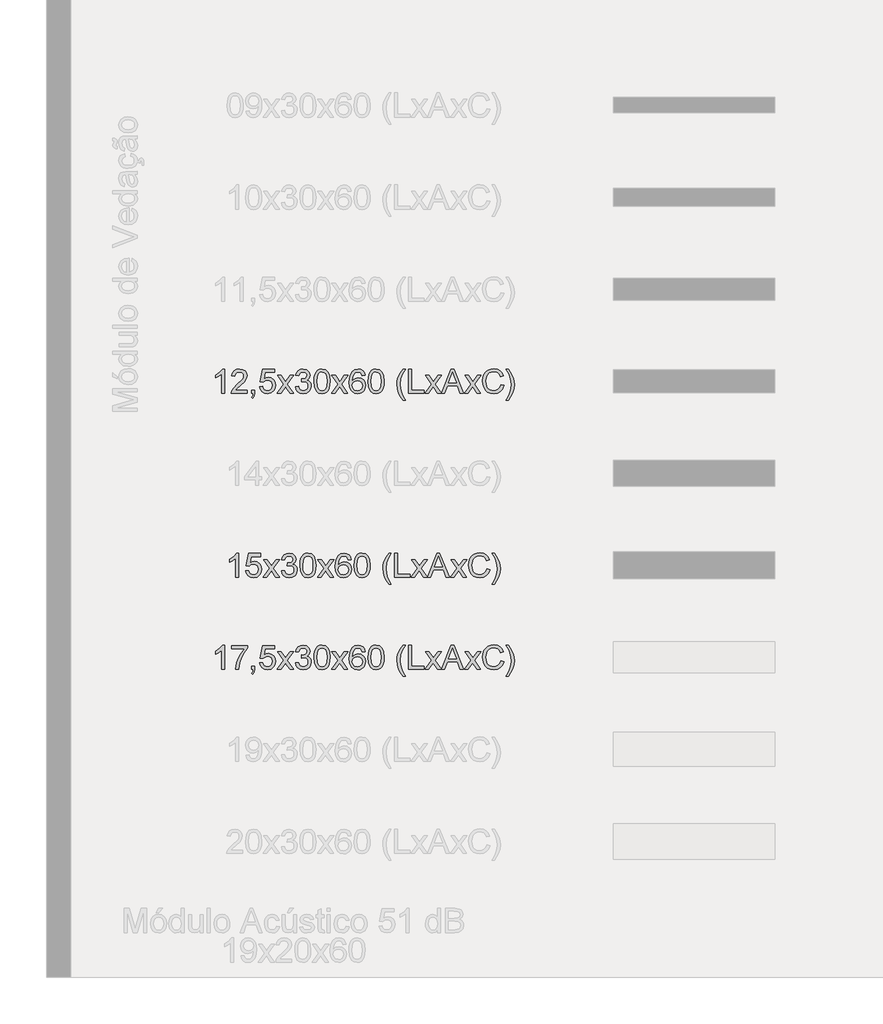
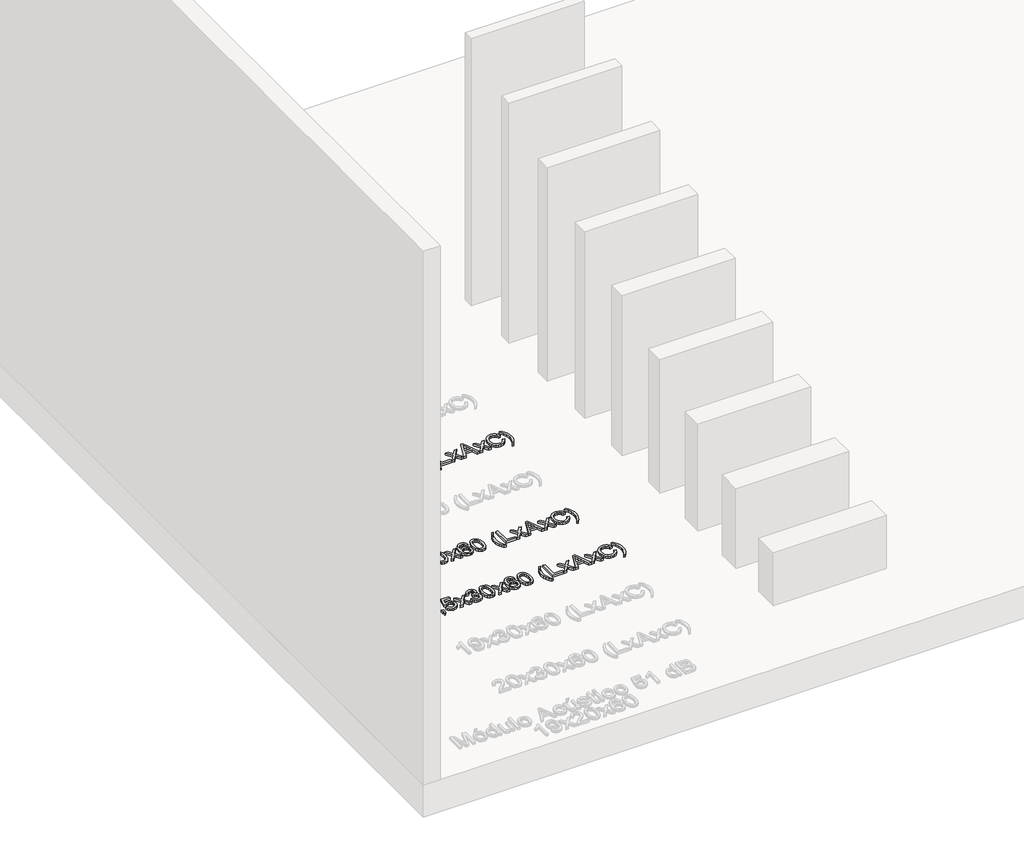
# One storey, part 13 of 26: 3 proxies.
"""IFC4 building model written with IfcOpenShell, lengths in millimetres."""

from ifc_helpers import new_model, si_unit, origin, origin_with_axes, place, context, project, spatial, polyline, outline, extrude, element, save

model = new_model("IFC4")

# Units and contexts
model_context = context("Model", 3, world=origin())
ifc_project = project(units=[si_unit("LENGTHUNIT", "METRE", prefix="MILLI")], contexts=[model_context])

# Site, building, storey
site = spatial("IfcSite", under=ifc_project)
building = spatial("IfcBuilding", under=site)
storey = spatial("IfcBuildingStorey", under=building, Name="Catálogo Celucon", Elevation=0.0)

# Proxies
placement = place(None, origin())
element("IfcBuildingElementProxy", 1, Name="Legenda Tabela de Módulos", ObjectType="Legenda Tabela de Módulos", at=placement, inside=storey, context=model_context, shape_type="SweptSolid", body=[
    extrude(outline(polyline([(8048.0494976, -2301.1000972), (8029.2139394, -2301.1000972), (8029.2139394, -2183.6721644), (8011.3716627, -2196.3824873), (7991.5428231, -2205.8922369), (7991.5428231, -2188.0867483), (8019.1523669, -2170.4652007), (8035.9093918, -2150.415632), (8048.0494976, -2150.415632), (8048.0494976, -2301.1000972)])), origin_with_axes(), (0.0, 0.0, 1.0), 20.0),
    extrude(outline(polyline([(8189.3161837, -2282.2645391), (8189.3161837, -2301.1000972), (8090.4295034, -2301.1000972), (8092.4528544, -2288.1138628), (8103.8939845, -2268.1194764), (8127.4752204, -2246.2856799), (8159.9959887, -2214.9053458), (8166.0936328, -2204.0896151), (8168.1261808, -2193.56819), (8166.2085959, -2184.1366154), (8160.4558412, -2176.2961304), (8151.6128778, -2171.0124252), (8140.4246666, -2169.2511902), (8128.6754354, -2170.9710385), (8119.5473634, -2176.1305835), (8113.6566529, -2184.3251549), (8111.6195064, -2195.1500826), (8092.7839482, -2192.7956378), (8097.3502835, -2174.576282), (8107.2233165, -2161.2681509), (8121.8880126, -2153.1287617), (8140.8293368, -2150.415632), (8159.9086168, -2153.4322644), (8174.5457216, -2162.4821614), (8183.8577346, -2176.0018248), (8186.961739, -2192.4277558), (8183.6140128, -2210.2884267), (8172.4855825, -2228.7561029), (8145.5014381, -2254.5630248), (8123.8331886, -2272.6812131), (8115.3351145, -2282.2645391), (8189.3161837, -2282.2645391)])), origin_with_axes(), (0.0, 0.0, 1.0), 20.0),
    extrude(outline(polyline([(8217.569521, -2301.1000972), (8217.569521, -2282.2645391), (8236.4050791, -2282.2645391), (8236.4050791, -2301.1000972), (8233.0205648, -2320.3587197), (8222.2784105, -2331.7078792), (8217.569521, -2324.6445449), (8224.4857025, -2316.5143528), (8226.9505119, -2301.1000972), (8217.569521, -2301.1000972)])), origin_with_axes(), (0.0, 0.0, 1.0), 20.0),
    extrude(outline(polyline([(8267.0128611, -2261.0745361), (8285.8484193, -2258.7200914), (8289.30651, -2270.0278642), (8295.3397748, -2278.1258666), (8303.9206223, -2282.9957045), (8315.0214615, -2284.6189838), (8328.5227307, -2282.3611081), (8338.6394856, -2275.5874809), (8344.9578589, -2265.0798514), (8347.0639833, -2251.6199689), (8345.0912161, -2238.9464341), (8339.1729145, -2229.2527436), (8329.2630932, -2223.0999172), (8315.3157671, -2221.0489751), (8298.7794714, -2224.3231248), (8288.2028641, -2232.8211989), (8269.3673059, -2230.4667541), (8285.8484193, -2152.7700768), (8358.8362071, -2152.7700768), (8358.8362071, -2171.6056349), (8301.0787339, -2171.6056349), (8293.0221182, -2213.102724), (8306.4774022, -2204.9357437), (8320.5764796, -2202.2134169), (8338.1750346, -2205.5887342), (8352.7845483, -2215.7146861), (8362.6207932, -2231.1473358), (8365.8995414, -2250.4427465), (8362.9472884, -2269.2783046), (8354.0905294, -2285.391536), (8337.1311694, -2298.9387905), (8314.9478851, -2303.454542), (8296.4480193, -2300.5528728), (8281.7097468, -2291.847865), (8271.6067875, -2278.3511943), (8267.0128611, -2261.0745361)])), origin_with_axes(), (0.0, 0.0, 1.0), 20.0),
    extrude(outline(polyline([(8375.3173205, -2301.1000972), (8415.5636108, -2245.4763396), (8377.6717653, -2190.4411931), (8400.3332962, -2190.4411931), (8418.6170313, -2216.9286967), (8427.1518936, -2229.4366846), (8434.5463217, -2219.2095651), (8455.3684427, -2190.4411931), (8478.0299736, -2190.4411931), (8438.2251417, -2245.4763396), (8476.5584456, -2301.1000972), (8453.8969147, -2301.1000972), (8430.8307136, -2267.6596239), (8426.6000706, -2261.5527827), (8397.9788514, -2301.1000972), (8375.3173205, -2301.1000972)])), origin_with_axes(), (0.0, 0.0, 1.0), 20.0),
    extrude(outline(polyline([(8488.3306694, -2261.0745361), (8507.1662276, -2258.7200914), (8511.3830749, -2270.5566946), (8517.5588939, -2278.5489309), (8525.9971872, -2283.1014706), (8537.0014574, -2284.6189838), (8549.9141154, -2282.5312535), (8559.8837175, -2276.2680625), (8566.2572731, -2266.9238599), (8568.3817916, -2255.5930944), (8566.2756672, -2244.8371446), (8559.9572939, -2236.1137428), (8550.392362, -2230.3333969), (8538.5465618, -2228.406615), (8525.3395981, -2230.4667541), (8527.4365255, -2211.631196), (8530.4531579, -2211.8519252), (8551.8271018, -2206.4440599), (8558.9456184, -2199.5830607), (8561.3184573, -2189.8157937), (8559.5986089, -2181.6810031), (8554.439064, -2175.0821198), (8546.5663893, -2170.7089226), (8536.7071518, -2169.2511902), (8526.8295202, -2170.7227181), (8518.7545104, -2175.1373021), (8512.8592015, -2182.494942), (8509.5206723, -2192.7956378), (8490.6851142, -2190.4411931), (8496.2309353, -2173.5278183), (8506.0993698, -2160.9002689), (8519.600639, -2153.0367912), (8536.0449642, -2150.415632), (8558.7616774, -2155.584374), (8574.6541796, -2169.7110426), (8580.1540154, -2188.7121477), (8574.9300911, -2206.0761779), (8559.4790473, -2218.5473775), (8571.2696652, -2223.3114493), (8580.0068626, -2231.4232473), (8585.414728, -2242.4413131), (8587.2173497, -2255.9241882), (8583.6121062, -2274.2814998), (8572.7963755, -2289.622179), (8556.471612, -2299.9964512), (8536.3392698, -2303.454542), (8518.129111, -2300.502289), (8503.3034666, -2291.6455299), (8492.9935737, -2278.0982755), (8488.3306694, -2261.0745361)])), origin_with_axes(), (0.0, 0.0, 1.0), 20.0),
    extrude(outline(polyline([(8603.6984631, -2226.9718752), (8605.0826191, -2202.8526119), (8609.2350871, -2183.6169821), (8616.1144805, -2168.9706801), (8625.6794123, -2158.6194005), (8637.9988606, -2152.4665741), (8653.1418033, -2150.415632), (8675.1411466, -2155.2716743), (8690.334673, -2169.2695843), (8699.1638409, -2191.5632332), (8702.5851434, -2226.9718752), (8701.214783, -2250.9531828), (8697.1037017, -2270.1428273), (8690.2656951, -2284.8029248), (8680.7145588, -2295.1955912), (8668.3675193, -2301.3898043), (8653.1418033, -2303.454542), (8633.5704811, -2299.8676925), (8618.7080485, -2289.1071442), (8607.4508595, -2263.622119), (8603.6984631, -2226.9718752)]), holes=[polyline([(8622.5340213, -2226.935087), (8624.7413132, -2256.5633832), (8631.3631892, -2273.7112827), (8641.2224266, -2281.8920586), (8653.1418033, -2284.6189838), (8665.0611799, -2281.8828615), (8674.9204174, -2273.6744945), (8681.5422933, -2256.5173979), (8683.7495853, -2226.935087), (8681.6158697, -2197.9735769), (8675.214723, -2180.6923202), (8665.3738796, -2172.1114727), (8652.9210741, -2169.2511902), (8641.1304561, -2171.7711818), (8631.6574947, -2179.3311568), (8624.8148896, -2197.6884684), (8622.5340213, -2226.935087)])]), origin_with_axes(), (0.0, 0.0, 1.0), 20.0),
    extrude(outline(polyline([(8712.0029225, -2301.1000972), (8752.2492128, -2245.4763396), (8714.3573673, -2190.4411931), (8737.0188982, -2190.4411931), (8755.3026333, -2216.9286967), (8763.8374956, -2229.4366846), (8771.2319237, -2219.2095651), (8792.0540446, -2190.4411931), (8814.7155755, -2190.4411931), (8774.9107437, -2245.4763396), (8813.2440476, -2301.1000972), (8790.5825167, -2301.1000972), (8767.5163156, -2267.6596239), (8763.2856726, -2261.5527827), (8734.6644534, -2301.1000972), (8712.0029225, -2301.1000972)])), origin_with_axes(), (0.0, 0.0, 1.0), 20.0),
    extrude(outline(polyline([(8921.5485069, -2190.4411931), (8902.7129488, -2192.7956378), (8895.5760381, -2177.0870766), (8887.0319787, -2171.2101618), (8876.7036917, -2169.2511902), (8859.7075436, -2173.8129269), (8846.8500678, -2190.9378338), (8842.9459202, -2204.9679334), (8841.4973848, -2224.5070658), (8858.1072569, -2209.4790863), (8878.6902545, -2204.5678617), (8896.0910729, -2207.9247849), (8910.6959881, -2217.9955545), (8920.6012108, -2233.382219), (8923.9029517, -2252.6868267), (8922.3486503, -2266.1743003), (8917.685746, -2278.6776896), (8910.3005149, -2289.2818881), (8900.5792332, -2297.0717894), (8888.9633592, -2301.8588538), (8875.8943513, -2303.454542), (8854.525006, -2299.223899), (8837.5058651, -2286.5319702), (8826.3728363, -2264.1279567), (8822.6618266, -2230.7610597), (8826.782105, -2193.2462933), (8839.14294, -2167.5957212), (8856.0195266, -2154.7106543), (8877.8809141, -2150.415632), (8894.4080128, -2153.0735794), (8907.6425675, -2161.0474217), (8916.9131938, -2173.7117593), (8921.5485069, -2190.4411931)]), holes=[polyline([(8841.4973848, -2252.3925211), (8845.8567864, -2268.7080875), (8857.4450693, -2280.5538878), (8874.4228234, -2284.6189838), (8886.8526363, -2282.5128594), (8896.6245018, -2276.1944862), (8902.9566706, -2266.2616723), (8905.0673936, -2253.3122261), (8902.9842618, -2240.8824131), (8896.7348664, -2231.4048532), (8886.797454, -2225.4037782), (8873.6502712, -2223.4034198), (8861.2388524, -2225.4037782), (8850.8599816, -2231.4048532), (8843.838034, -2240.6524869), (8841.4973848, -2252.3925211)])]), origin_with_axes(), (0.0, 0.0, 1.0), 20.0),
    extrude(outline(polyline([(8940.3840651, -2226.9718752), (8941.7682211, -2202.8526119), (8945.9206891, -2183.6169821), (8952.8000824, -2168.9706801), (8962.3650143, -2158.6194005), (8974.6844626, -2152.4665741), (8989.8274053, -2150.415632), (9011.8267486, -2155.2716743), (9027.020275, -2169.2695843), (9035.8494428, -2191.5632332), (9039.2707454, -2226.9718752), (9037.900385, -2250.9531828), (9033.7893037, -2270.1428273), (9026.9512971, -2284.8029248), (9017.4001608, -2295.1955912), (9005.0531213, -2301.3898043), (8989.8274053, -2303.454542), (8970.2560831, -2299.8676925), (8955.3936505, -2289.1071442), (8944.1364615, -2263.622119), (8940.3840651, -2226.9718752)]), holes=[polyline([(8959.2196233, -2226.935087), (8961.4269152, -2256.5633832), (8968.0487911, -2273.7112827), (8977.9080286, -2281.8920586), (8989.8274053, -2284.6189838), (9001.7467819, -2281.8828615), (9011.6060194, -2273.6744945), (9018.2278953, -2256.5173979), (9020.4351873, -2226.935087), (9018.3014717, -2197.9735769), (9011.900325, -2180.6923202), (9002.0594816, -2172.1114727), (8989.6066761, -2169.2511902), (8977.8160581, -2171.7711818), (8968.3430967, -2179.3311568), (8961.5004916, -2197.6884684), (8959.2196233, -2226.935087)])]), origin_with_axes(), (0.0, 0.0, 1.0), 20.0),
    extrude(outline(polyline([(9156.9929839, -2343.4801031), (9142.3972657, -2322.998273), (9130.2479628, -2299.2974754), (9122.0533914, -2273.5273417), (9119.3218676, -2246.8375029), (9121.3636126, -2223.431011), (9127.4888478, -2201.0361945), (9139.6473478, -2175.670731), (9156.9929839, -2150.415632), (9171.1196525, -2150.415632), (9153.4981049, -2180.2508618), (9142.9031034, -2209.1663866), (9138.1574257, -2246.9478675), (9140.2175649, -2271.094722), (9146.3979824, -2295.2323794), (9156.6986783, -2319.3608398), (9171.1196525, -2343.4801031), (9156.9929839, -2343.4801031)])), origin_with_axes(), (0.0, 0.0, 1.0), 20.0),
    extrude(outline(polyline([(9192.3096554, -2301.1000972), (9192.3096554, -2150.415632), (9211.1452136, -2150.415632), (9211.1452136, -2282.2645391), (9286.4874462, -2282.2645391), (9286.4874462, -2301.1000972), (9192.3096554, -2301.1000972)])), origin_with_axes(), (0.0, 0.0, 1.0), 20.0),
    extrude(outline(polyline([(9396.0794925, -2301.1000972), (9456.2281987, -2150.415632), (9472.2678537, -2150.415632), (9532.4165599, -2301.1000972), (9512.514144, -2301.1000972), (9495.2604784, -2254.0112018), (9433.1987858, -2254.0112018), (9415.9819085, -2301.1000972), (9396.0794925, -2301.1000972)]), holes=[polyline([(9440.1149673, -2235.1756437), (9488.3810851, -2235.1756437), (9474.8062395, -2198.1299268), (9464.2480262, -2169.2511902), (9454.8670354, -2194.8925652), (9440.1149673, -2235.1756437)])]), origin_with_axes(), (0.0, 0.0, 1.0), 20.0),
    extrude(outline(polyline([(9293.5507805, -2301.1000972), (9333.7970707, -2245.4763396), (9295.9052252, -2190.4411931), (9318.5667561, -2190.4411931), (9336.8504913, -2216.9286967), (9345.3853536, -2229.4366846), (9352.7797817, -2219.2095651), (9373.6019026, -2190.4411931), (9396.2634335, -2190.4411931), (9356.4586016, -2245.4763396), (9394.7919055, -2301.1000972), (9372.1303746, -2301.1000972), (9349.0641735, -2267.6596239), (9344.8335306, -2261.5527827), (9316.2123114, -2301.1000972), (9293.5507805, -2301.1000972)])), origin_with_axes(), (0.0, 0.0, 1.0), 20.0),
    extrude(outline(polyline([(9538.4130365, -2301.1000972), (9578.6593267, -2245.4763396), (9540.7674812, -2190.4411931), (9563.4290121, -2190.4411931), (9581.7127473, -2216.9286967), (9590.2476096, -2229.4366846), (9597.6420377, -2219.2095651), (9618.4641586, -2190.4411931), (9641.1256895, -2190.4411931), (9601.3208576, -2245.4763396), (9639.6541615, -2301.1000972), (9616.9926306, -2301.1000972), (9593.9264295, -2267.6596239), (9589.6957866, -2261.5527827), (9561.0745674, -2301.1000972), (9538.4130365, -2301.1000972)])), origin_with_axes(), (0.0, 0.0, 1.0), 20.0),
    extrude(outline(polyline([(9764.4397343, -2247.5364787), (9783.2752924, -2252.3925211), (9774.5840803, -2274.3412806), (9760.9448553, -2290.3763371), (9743.0290022, -2300.1849908), (9721.5079055, -2303.454542), (9699.6603135, -2300.9805356), (9682.3100789, -2293.5585163), (9669.0111447, -2281.4460016), (9659.3174542, -2264.9005089), (9653.3991526, -2245.4487484), (9651.4263854, -2224.6174304), (9653.65667, -2202.6456783), (9660.3475238, -2183.6721644), (9671.1494588, -2168.2992955), (9685.7129873, -2157.1294784), (9702.985047, -2150.32826), (9721.9125757, -2148.0611872), (9742.5645512, -2150.9950461), (9759.6388743, -2159.7966229), (9772.6021161, -2173.9232915), (9780.9208477, -2192.832426), (9762.0852895, -2197.3205864), (9755.5553841, -2183.5847924), (9746.6342457, -2174.1624148), (9735.2115098, -2168.7131627), (9721.1768117, -2166.8967454), (9704.9992009, -2168.9108993), (9691.7094638, -2174.9533611), (9681.6248987, -2184.3895343), (9675.0628036, -2196.5848224), (9670.2619435, -2224.5806422), (9671.6828877, -2241.9814606), (9675.9457204, -2257.0278342), (9683.2113898, -2269.1449474), (9693.6408443, -2277.7579846), (9706.1442336, -2282.903734), (9719.6317073, -2284.6189838), (9735.3540641, -2282.2829332), (9748.4552616, -2275.2747812), (9758.3466888, -2263.6681042), (9764.4397343, -2247.5364787)])), origin_with_axes(), (0.0, 0.0, 1.0), 20.0),
    extrude(outline(polyline([(9811.5286297, -2343.4801031), (9797.4019611, -2343.4801031), (9811.8229353, -2319.3608398), (9822.1236311, -2295.2323794), (9828.3040487, -2271.094722), (9830.3641878, -2246.9478675), (9825.6185101, -2209.4974804), (9815.1338732, -2180.5451674), (9797.4019611, -2150.415632), (9811.5286297, -2150.415632), (9828.8742658, -2175.670731), (9841.0327657, -2201.0361945), (9847.1580009, -2223.431011), (9849.199746, -2246.8375029), (9846.4544266, -2273.5273417), (9838.2184684, -2299.2974754), (9826.05537, -2322.998273), (9811.5286297, -2343.4801031)])), origin_with_axes(), (0.0, 0.0, 1.0), 20.0),
])
element("IfcBuildingElementProxy", 2, Name="Legenda Tabela de Módulos", ObjectType="Legenda Tabela de Módulos", at=placement, inside=storey, context=model_context, shape_type="SweptSolid", body=[
    extrude(outline(polyline([(8135.1639541, -3443.9572401), (8116.3283959, -3443.9572401), (8116.3283959, -3326.5293072), (8098.4861191, -3339.2396302), (8078.6572796, -3348.7493797), (8078.6572796, -3330.9438912), (8106.2668233, -3313.3223436), (8123.0238482, -3293.2727749), (8135.1639541, -3293.2727749), (8135.1639541, -3443.9572401)])), origin_with_axes(), (0.0, 0.0, 1.0), 20.0),
    extrude(outline(polyline([(8179.8984047, -3403.931679), (8198.7339628, -3401.5772342), (8202.1920536, -3412.8850071), (8208.2253183, -3420.9830095), (8216.8061658, -3425.8528474), (8227.907005, -3427.4761267), (8241.4082743, -3425.218251), (8251.5250291, -3418.4446237), (8257.8434024, -3407.9369942), (8259.9495268, -3394.4771117), (8257.9767596, -3381.803577), (8252.058458, -3372.1098864), (8242.1486368, -3365.9570601), (8228.2013106, -3363.9061179), (8211.665015, -3367.1802677), (8201.0884076, -3375.6783418), (8182.2528494, -3373.323897), (8198.7339628, -3295.6272196), (8271.7217507, -3295.6272196), (8271.7217507, -3314.4627778), (8213.9642774, -3314.4627778), (8205.9076617, -3355.9598668), (8219.3629457, -3347.7928865), (8233.4620232, -3345.0705598), (8251.0605781, -3348.4458771), (8265.6700918, -3358.571829), (8275.5063367, -3374.0044787), (8278.785085, -3393.2998893), (8275.832832, -3412.1354475), (8266.9760729, -3428.2486789), (8250.016713, -3441.7959334), (8227.8334286, -3446.3116848), (8209.3335628, -3443.4100156), (8194.5952904, -3434.7050079), (8184.4923311, -3421.2083372), (8179.8984047, -3403.931679)])), origin_with_axes(), (0.0, 0.0, 1.0), 20.0),
    extrude(outline(polyline([(8288.2028641, -3443.9572401), (8328.4491543, -3388.3334824), (8290.5573088, -3333.2983359), (8313.2188397, -3333.2983359), (8331.5025749, -3359.7858396), (8340.0374372, -3372.2938274), (8347.4318653, -3362.066708), (8368.2539862, -3333.2983359), (8390.9155171, -3333.2983359), (8351.1106852, -3388.3334824), (8389.4439891, -3443.9572401), (8366.7824582, -3443.9572401), (8343.7162571, -3410.5167667), (8339.4856142, -3404.4099256), (8310.864395, -3443.9572401), (8288.2028641, -3443.9572401)])), origin_with_axes(), (0.0, 0.0, 1.0), 20.0),
    extrude(outline(polyline([(8401.216213, -3403.931679), (8420.0517711, -3401.5772342), (8424.2686185, -3413.4138374), (8430.4444375, -3421.4060738), (8438.8827308, -3425.9586135), (8449.8870009, -3427.4761267), (8462.799659, -3425.3883964), (8472.769261, -3419.1252054), (8479.1428166, -3409.7810027), (8481.2673351, -3398.4502373), (8479.1612107, -3387.6942874), (8472.8428374, -3378.9708856), (8463.2779056, -3373.1905398), (8451.4321053, -3371.2637578), (8438.2251417, -3373.323897), (8440.3220691, -3354.4883389), (8443.3387014, -3354.7090681), (8464.7126453, -3349.3012027), (8471.8311619, -3342.4402035), (8474.2040008, -3332.6729365), (8472.4841525, -3324.5381459), (8467.3246075, -3317.9392626), (8459.4519328, -3313.5660654), (8449.5926953, -3312.108333), (8439.7150638, -3313.579861), (8431.640054, -3317.9944449), (8425.744745, -3325.3520848), (8422.4062159, -3335.6527807), (8403.5706577, -3333.2983359), (8409.1164788, -3316.3849612), (8418.9849133, -3303.7574117), (8432.4861826, -3295.8939341), (8448.9305077, -3293.2727749), (8471.6472209, -3298.4415169), (8487.5397231, -3312.5681855), (8493.039559, -3331.5692906), (8487.8156346, -3348.9333207), (8472.3645908, -3361.4045204), (8484.1552088, -3366.1685922), (8492.8924062, -3374.2803902), (8498.3002715, -3385.2984559), (8500.1028933, -3398.7813311), (8496.4976497, -3417.1386426), (8485.6819191, -3432.4793218), (8469.3571555, -3442.8535941), (8449.2248133, -3446.3116848), (8431.0146546, -3443.3594318), (8416.1890102, -3434.5026728), (8405.8791173, -3420.9554183), (8401.216213, -3403.931679)])), origin_with_axes(), (0.0, 0.0, 1.0), 20.0),
    extrude(outline(polyline([(8516.5840067, -3369.8290181), (8517.9681627, -3345.7097547), (8522.1206307, -3326.4741249), (8529.000024, -3311.827823), (8538.5649559, -3301.4765433), (8550.8844042, -3295.323717), (8566.0273468, -3293.2727749), (8588.0266901, -3298.1288172), (8603.2202165, -3312.1267271), (8612.0493844, -3334.420376), (8615.470687, -3369.8290181), (8614.1003265, -3393.8103256), (8609.9892452, -3412.9999702), (8603.1512386, -3427.6600677), (8593.6001023, -3438.0527341), (8581.2530629, -3444.2469472), (8566.0273468, -3446.3116848), (8546.4560247, -3442.7248354), (8531.5935921, -3431.964287), (8520.336403, -3406.4792618), (8516.5840067, -3369.8290181)]), holes=[polyline([(8535.4195648, -3369.7922299), (8537.6268568, -3399.420526), (8544.2487327, -3416.5684255), (8554.1079702, -3424.7492014), (8566.0273468, -3427.4761267), (8577.9467235, -3424.7400044), (8587.8059609, -3416.5316373), (8594.4278368, -3399.3745408), (8596.6351288, -3369.7922299), (8594.5014132, -3340.8307198), (8588.1002665, -3323.5494631), (8578.2594231, -3314.9686155), (8565.8066176, -3312.108333), (8554.0159997, -3314.6283247), (8544.5430383, -3322.1882997), (8537.7004332, -3340.5456112), (8535.4195648, -3369.7922299)])]), origin_with_axes(), (0.0, 0.0, 1.0), 20.0),
    extrude(outline(polyline([(8624.888466, -3443.9572401), (8665.1347563, -3388.3334824), (8627.2429108, -3333.2983359), (8649.9044417, -3333.2983359), (8668.1881769, -3359.7858396), (8676.7230392, -3372.2938274), (8684.1174673, -3362.066708), (8704.9395882, -3333.2983359), (8727.6011191, -3333.2983359), (8687.7962872, -3388.3334824), (8726.1295911, -3443.9572401), (8703.4680602, -3443.9572401), (8680.4018591, -3410.5167667), (8676.1712162, -3404.4099256), (8647.5499969, -3443.9572401), (8624.888466, -3443.9572401)])), origin_with_axes(), (0.0, 0.0, 1.0), 20.0),
    extrude(outline(polyline([(8834.4340505, -3333.2983359), (8815.5984923, -3335.6527807), (8808.4615816, -3319.9442195), (8799.9175223, -3314.0673046), (8789.5892353, -3312.108333), (8772.5930871, -3316.6700697), (8759.7356114, -3333.7949766), (8755.8314637, -3347.8250762), (8754.3829283, -3367.3642087), (8770.9928004, -3352.3362292), (8791.5757981, -3347.4250045), (8808.9766164, -3350.7819278), (8823.5815316, -3360.8526974), (8833.4867544, -3376.2393618), (8836.7884953, -3395.5439695), (8835.2341938, -3409.0314432), (8830.5712895, -3421.5348325), (8823.1860585, -3432.139031), (8813.4647768, -3439.9289322), (8801.8489028, -3444.7159967), (8788.7798949, -3446.3116848), (8767.4105495, -3442.0810419), (8750.3914087, -3429.3891131), (8739.2583798, -3406.9850996), (8735.5473702, -3373.6182026), (8739.6676485, -3336.1034361), (8752.0284836, -3310.452864), (8768.9050701, -3297.5677971), (8790.7664577, -3293.2727749), (8807.2935563, -3295.9307223), (8820.5281111, -3303.9045645), (8829.7987374, -3316.5689022), (8834.4340505, -3333.2983359)]), holes=[polyline([(8754.3829283, -3395.2496639), (8758.74233, -3411.5652304), (8770.3306128, -3423.4110307), (8787.3083669, -3427.4761267), (8799.7381798, -3425.3700023), (8809.5100453, -3419.051629), (8815.8422142, -3409.1188151), (8817.9529371, -3396.1693689), (8815.8698053, -3383.739556), (8809.6204099, -3374.2619961), (8799.6829975, -3368.260921), (8786.5358147, -3366.2605627), (8774.1243959, -3368.260921), (8763.7455251, -3374.2619961), (8756.7235775, -3383.5096297), (8754.3829283, -3395.2496639)])]), origin_with_axes(), (0.0, 0.0, 1.0), 20.0),
    extrude(outline(polyline([(8853.2696086, -3369.8290181), (8854.6537646, -3345.7097547), (8858.8062327, -3326.4741249), (8865.685626, -3311.827823), (8875.2505579, -3301.4765433), (8887.5700062, -3295.323717), (8902.7129488, -3293.2727749), (8924.7122921, -3298.1288172), (8939.9058185, -3312.1267271), (8948.7349864, -3334.420376), (8952.1562889, -3369.8290181), (8950.7859285, -3393.8103256), (8946.6748472, -3412.9999702), (8939.8368406, -3427.6600677), (8930.2857043, -3438.0527341), (8917.9386649, -3444.2469472), (8902.7129488, -3446.3116848), (8883.1416267, -3442.7248354), (8868.279194, -3431.964287), (8857.022005, -3406.4792618), (8853.2696086, -3369.8290181)]), holes=[polyline([(8872.1051668, -3369.7922299), (8874.3124588, -3399.420526), (8880.9343347, -3416.5684255), (8890.7935722, -3424.7492014), (8902.7129488, -3427.4761267), (8914.6323254, -3424.7400044), (8924.4915629, -3416.5316373), (8931.1134388, -3399.3745408), (8933.3207308, -3369.7922299), (8931.1870152, -3340.8307198), (8924.7858685, -3323.5494631), (8914.9450251, -3314.9686155), (8902.4922196, -3312.108333), (8890.7016017, -3314.6283247), (8881.2286403, -3322.1882997), (8874.3860352, -3340.5456112), (8872.1051668, -3369.7922299)])]), origin_with_axes(), (0.0, 0.0, 1.0), 20.0),
    extrude(outline(polyline([(9069.8785274, -3486.3372459), (9055.2828092, -3465.8554158), (9043.1335064, -3442.1546183), (9034.9389349, -3416.3844845), (9032.2074111, -3389.6946458), (9034.2491562, -3366.2881538), (9040.3743914, -3343.8933374), (9052.5328913, -3318.5278738), (9069.8785274, -3293.2727749), (9084.005196, -3293.2727749), (9066.3836484, -3323.1080047), (9055.788647, -3352.0235295), (9051.0429692, -3389.8050104), (9053.1031084, -3413.9518648), (9059.2835259, -3438.0895223), (9069.5842218, -3462.2179826), (9084.005196, -3486.3372459), (9069.8785274, -3486.3372459)])), origin_with_axes(), (0.0, 0.0, 1.0), 20.0),
    extrude(outline(polyline([(9105.1951989, -3443.9572401), (9105.1951989, -3293.2727749), (9124.0307571, -3293.2727749), (9124.0307571, -3425.1216819), (9199.3729897, -3425.1216819), (9199.3729897, -3443.9572401), (9105.1951989, -3443.9572401)])), origin_with_axes(), (0.0, 0.0, 1.0), 20.0),
    extrude(outline(polyline([(9308.9650361, -3443.9572401), (9369.1137423, -3293.2727749), (9385.1533973, -3293.2727749), (9445.3021035, -3443.9572401), (9425.3996875, -3443.9572401), (9408.146022, -3396.8683447), (9346.0843294, -3396.8683447), (9328.867452, -3443.9572401), (9308.9650361, -3443.9572401)]), holes=[polyline([(9353.0005109, -3378.0327865), (9401.2666287, -3378.0327865), (9387.691783, -3340.9870696), (9377.1335698, -3312.108333), (9367.7525789, -3337.7497081), (9353.0005109, -3378.0327865)])]), origin_with_axes(), (0.0, 0.0, 1.0), 20.0),
    extrude(outline(polyline([(9206.436324, -3443.9572401), (9246.6826143, -3388.3334824), (9208.7907688, -3333.2983359), (9231.4522997, -3333.2983359), (9249.7360348, -3359.7858396), (9258.2708971, -3372.2938274), (9265.6653252, -3362.066708), (9286.4874462, -3333.2983359), (9309.1489771, -3333.2983359), (9269.3441452, -3388.3334824), (9307.6774491, -3443.9572401), (9285.0159182, -3443.9572401), (9261.9497171, -3410.5167667), (9257.7190741, -3404.4099256), (9229.0978549, -3443.9572401), (9206.436324, -3443.9572401)])), origin_with_axes(), (0.0, 0.0, 1.0), 20.0),
    extrude(outline(polyline([(9451.29858, -3443.9572401), (9491.5448703, -3388.3334824), (9453.6530248, -3333.2983359), (9476.3145557, -3333.2983359), (9494.5982908, -3359.7858396), (9503.1331531, -3372.2938274), (9510.5275812, -3362.066708), (9531.3497022, -3333.2983359), (9554.0112331, -3333.2983359), (9514.2064012, -3388.3334824), (9552.5397051, -3443.9572401), (9529.8781742, -3443.9572401), (9506.8119731, -3410.5167667), (9502.5813301, -3404.4099256), (9473.9601109, -3443.9572401), (9451.29858, -3443.9572401)])), origin_with_axes(), (0.0, 0.0, 1.0), 20.0),
    extrude(outline(polyline([(9677.3252778, -3390.3936216), (9696.160836, -3395.2496639), (9687.4696239, -3417.1984235), (9673.8303989, -3433.2334799), (9655.9145457, -3443.0421336), (9634.393449, -3446.3116848), (9612.545857, -3443.8376784), (9595.1956224, -3436.4156592), (9581.8966883, -3424.3031445), (9572.2029977, -3407.7576518), (9566.2846961, -3388.3058913), (9564.3119289, -3367.4745733), (9566.5422135, -3345.5028211), (9573.2330673, -3326.5293072), (9584.0350024, -3311.1564383), (9598.5985309, -3299.9866213), (9615.8705905, -3293.1854029), (9634.7981192, -3290.9183301), (9655.4500947, -3293.852189), (9672.5244178, -3302.6537657), (9685.4876596, -3316.7804343), (9693.8063912, -3335.6895689), (9674.9708331, -3340.1777292), (9668.4409277, -3326.4419352), (9659.5197893, -3317.0195576), (9648.0970533, -3311.5703056), (9634.0623552, -3309.7538882), (9617.8847445, -3311.7680422), (9604.5950074, -3317.8105039), (9594.5104422, -3327.2466771), (9587.9483471, -3339.4419653), (9583.1474871, -3367.4377851), (9584.5684313, -3384.8386035), (9588.8312639, -3399.8849771), (9596.0969333, -3412.0020903), (9606.5263879, -3420.6151275), (9619.0297772, -3425.7608769), (9632.5172508, -3427.4761267), (9648.2396076, -3425.140076), (9661.3408051, -3418.131924), (9671.2322323, -3406.5252471), (9677.3252778, -3390.3936216)])), origin_with_axes(), (0.0, 0.0, 1.0), 20.0),
    extrude(outline(polyline([(9724.4141732, -3486.3372459), (9710.2875046, -3486.3372459), (9724.7084788, -3462.2179826), (9735.0091747, -3438.0895223), (9741.1895922, -3413.9518648), (9743.2497314, -3389.8050104), (9738.5040536, -3352.3546233), (9728.0194168, -3323.4023103), (9710.2875046, -3293.2727749), (9724.4141732, -3293.2727749), (9741.7598093, -3318.5278738), (9753.9183092, -3343.8933374), (9760.0435445, -3366.2881538), (9762.0852895, -3389.6946458), (9759.3399701, -3416.3844845), (9751.104012, -3442.1546183), (9738.9409135, -3465.8554158), (9724.4141732, -3486.3372459)])), origin_with_axes(), (0.0, 0.0, 1.0), 20.0),
])
element("IfcBuildingElementProxy", 3, Name="Legenda Tabela de Módulos", ObjectType="Legenda Tabela de Módulos", at=placement, inside=storey, context=model_context, shape_type="SweptSolid", body=[
    extrude(outline(polyline([(8048.0494976, -4015.3858115), (8029.2139394, -4015.3858115), (8029.2139394, -3897.9578786), (8011.3716627, -3910.6682016), (7991.5428231, -3920.1779512), (7991.5428231, -3902.3724626), (8019.1523669, -3884.750915), (8035.9093918, -3864.7013463), (8048.0494976, -3864.7013463), (8048.0494976, -4015.3858115)])), origin_with_axes(), (0.0, 0.0, 1.0), 20.0),
    extrude(outline(polyline([(8092.7839482, -3885.8913492), (8092.7839482, -3867.0557911), (8191.6706285, -3867.0557911), (8191.6706285, -3882.2861057), (8163.6196264, -3922.8083074), (8151.3093751, -3948.27034), (8142.153712, -3974.4405454), (8135.1639541, -4015.3858115), (8116.3283959, -4015.3858115), (8123.8147945, -3972.8954411), (8132.5289993, -3948.4358869), (8144.3610039, -3924.8684466), (8172.8350704, -3885.8913492), (8092.7839482, -3885.8913492)])), origin_with_axes(), (0.0, 0.0, 1.0), 20.0),
    extrude(outline(polyline([(8217.569521, -4015.3858115), (8217.569521, -3996.5502534), (8236.4050791, -3996.5502534), (8236.4050791, -4015.3858115), (8233.0205648, -4034.644434), (8222.2784105, -4045.9935935), (8217.569521, -4038.9302592), (8224.4857025, -4030.8000671), (8226.9505119, -4015.3858115), (8217.569521, -4015.3858115)])), origin_with_axes(), (0.0, 0.0, 1.0), 20.0),
    extrude(outline(polyline([(8267.0128611, -3975.3602504), (8285.8484193, -3973.0058057), (8289.30651, -3984.3135785), (8295.3397748, -3992.4115809), (8303.9206223, -3997.2814188), (8315.0214615, -3998.9046981), (8328.5227307, -3996.6468224), (8338.6394856, -3989.8731951), (8344.9578589, -3979.3655657), (8347.0639833, -3965.9056832), (8345.0912161, -3953.2321484), (8339.1729145, -3943.5384579), (8329.2630932, -3937.3856315), (8315.3157671, -3935.3346894), (8298.7794714, -3938.6088391), (8288.2028641, -3947.1069132), (8269.3673059, -3944.7524684), (8285.8484193, -3867.0557911), (8358.8362071, -3867.0557911), (8358.8362071, -3885.8913492), (8301.0787339, -3885.8913492), (8293.0221182, -3927.3884383), (8306.4774022, -3919.221458), (8320.5764796, -3916.4991312), (8338.1750346, -3919.8744485), (8352.7845483, -3930.0004004), (8362.6207932, -3945.4330501), (8365.8995414, -3964.7284608), (8362.9472884, -3983.5640189), (8354.0905294, -3999.6772503), (8337.1311694, -4013.2245048), (8314.9478851, -4017.7402563), (8296.4480193, -4014.838587), (8281.7097468, -4006.1335793), (8271.6067875, -3992.6369086), (8267.0128611, -3975.3602504)])), origin_with_axes(), (0.0, 0.0, 1.0), 20.0),
    extrude(outline(polyline([(8375.3173205, -4015.3858115), (8415.5636108, -3959.7620538), (8377.6717653, -3904.7269074), (8400.3332962, -3904.7269074), (8418.6170313, -3931.214411), (8427.1518936, -3943.7223988), (8434.5463217, -3933.4952794), (8455.3684427, -3904.7269074), (8478.0299736, -3904.7269074), (8438.2251417, -3959.7620538), (8476.5584456, -4015.3858115), (8453.8969147, -4015.3858115), (8430.8307136, -3981.9453381), (8426.6000706, -3975.838497), (8397.9788514, -4015.3858115), (8375.3173205, -4015.3858115)])), origin_with_axes(), (0.0, 0.0, 1.0), 20.0),
    extrude(outline(polyline([(8488.3306694, -3975.3602504), (8507.1662276, -3973.0058057), (8511.3830749, -3984.8424089), (8517.5588939, -3992.8346452), (8525.9971872, -3997.3871849), (8537.0014574, -3998.9046981), (8549.9141154, -3996.8169678), (8559.8837175, -3990.5537768), (8566.2572731, -3981.2095742), (8568.3817916, -3969.8788087), (8566.2756672, -3959.1228589), (8559.9572939, -3950.3994571), (8550.392362, -3944.6191112), (8538.5465618, -3942.6923293), (8525.3395981, -3944.7524684), (8527.4365255, -3925.9169103), (8530.4531579, -3926.1376395), (8551.8271018, -3920.7297742), (8558.9456184, -3913.8687749), (8561.3184573, -3904.101508), (8559.5986089, -3895.9667173), (8554.439064, -3889.3678341), (8546.5663893, -3884.9946368), (8536.7071518, -3883.5369044), (8526.8295202, -3885.0084324), (8518.7545104, -3889.4230164), (8512.8592015, -3896.7806563), (8509.5206723, -3907.0813521), (8490.6851142, -3904.7269074), (8496.2309353, -3887.8135326), (8506.0993698, -3875.1859831), (8519.600639, -3867.3225055), (8536.0449642, -3864.7013463), (8558.7616774, -3869.8700883), (8574.6541796, -3883.9967569), (8580.1540154, -3902.997862), (8574.9300911, -3920.3618922), (8559.4790473, -3932.8330918), (8571.2696652, -3937.5971636), (8580.0068626, -3945.7089616), (8585.414728, -3956.7270274), (8587.2173497, -3970.2099025), (8583.6121062, -3988.5672141), (8572.7963755, -4003.9078933), (8556.471612, -4014.2821655), (8536.3392698, -4017.7402563), (8518.129111, -4014.7880033), (8503.3034666, -4005.9312442), (8492.9935737, -3992.3839898), (8488.3306694, -3975.3602504)])), origin_with_axes(), (0.0, 0.0, 1.0), 20.0),
    extrude(outline(polyline([(8603.6984631, -3941.2575895), (8605.0826191, -3917.1383262), (8609.2350871, -3897.9026963), (8616.1144805, -3883.2563944), (8625.6794123, -3872.9051148), (8637.9988606, -3866.7522884), (8653.1418033, -3864.7013463), (8675.1411466, -3869.5573886), (8690.334673, -3883.5552985), (8699.1638409, -3905.8489474), (8702.5851434, -3941.2575895), (8701.214783, -3965.238897), (8697.1037017, -3984.4285416), (8690.2656951, -3999.0886391), (8680.7145588, -4009.4813055), (8668.3675193, -4015.6755186), (8653.1418033, -4017.7402563), (8633.5704811, -4014.1534068), (8618.7080485, -4003.3928585), (8607.4508595, -3977.9078333), (8603.6984631, -3941.2575895)]), holes=[polyline([(8622.5340213, -3941.2208013), (8624.7413132, -3970.8490975), (8631.3631892, -3987.996997), (8641.2224266, -3996.1777728), (8653.1418033, -3998.9046981), (8665.0611799, -3996.1685758), (8674.9204174, -3987.9602088), (8681.5422933, -3970.8031122), (8683.7495853, -3941.2208013), (8681.6158697, -3912.2592912), (8675.214723, -3894.9780345), (8665.3738796, -3886.397187), (8652.9210741, -3883.5369044), (8641.1304561, -3886.0568961), (8631.6574947, -3893.6168711), (8624.8148896, -3911.9741827), (8622.5340213, -3941.2208013)])]), origin_with_axes(), (0.0, 0.0, 1.0), 20.0),
    extrude(outline(polyline([(8712.0029225, -4015.3858115), (8752.2492128, -3959.7620538), (8714.3573673, -3904.7269074), (8737.0188982, -3904.7269074), (8755.3026333, -3931.214411), (8763.8374956, -3943.7223988), (8771.2319237, -3933.4952794), (8792.0540446, -3904.7269074), (8814.7155755, -3904.7269074), (8774.9107437, -3959.7620538), (8813.2440476, -4015.3858115), (8790.5825167, -4015.3858115), (8767.5163156, -3981.9453381), (8763.2856726, -3975.838497), (8734.6644534, -4015.3858115), (8712.0029225, -4015.3858115)])), origin_with_axes(), (0.0, 0.0, 1.0), 20.0),
    extrude(outline(polyline([(8921.5485069, -3904.7269074), (8902.7129488, -3907.0813521), (8895.5760381, -3891.3727909), (8887.0319787, -3885.4958761), (8876.7036917, -3883.5369044), (8859.7075436, -3888.0986412), (8846.8500678, -3905.2235481), (8842.9459202, -3919.2536476), (8841.4973848, -3938.7927801), (8858.1072569, -3923.7648006), (8878.6902545, -3918.853576), (8896.0910729, -3922.2104992), (8910.6959881, -3932.2812688), (8920.6012108, -3947.6679332), (8923.9029517, -3966.9725409), (8922.3486503, -3980.4600146), (8917.685746, -3992.9634039), (8910.3005149, -4003.5676024), (8900.5792332, -4011.3575037), (8888.9633592, -4016.1445681), (8875.8943513, -4017.7402563), (8854.525006, -4013.5096133), (8837.5058651, -4000.8176845), (8826.3728363, -3978.413671), (8822.6618266, -3945.046774), (8826.782105, -3907.5320076), (8839.14294, -3881.8814355), (8856.0195266, -3868.9963686), (8877.8809141, -3864.7013463), (8894.4080128, -3867.3592937), (8907.6425675, -3875.3331359), (8916.9131938, -3887.9974736), (8921.5485069, -3904.7269074)]), holes=[polyline([(8841.4973848, -3966.6782353), (8845.8567864, -3982.9938018), (8857.4450693, -3994.8396021), (8874.4228234, -3998.9046981), (8886.8526363, -3996.7985737), (8896.6245018, -3990.4802004), (8902.9566706, -3980.5473866), (8905.0673936, -3967.5979403), (8902.9842618, -3955.1681274), (8896.7348664, -3945.6905675), (8886.797454, -3939.6894925), (8873.6502712, -3937.6891341), (8861.2388524, -3939.6894925), (8850.8599816, -3945.6905675), (8843.838034, -3954.9382012), (8841.4973848, -3966.6782353)])]), origin_with_axes(), (0.0, 0.0, 1.0), 20.0),
    extrude(outline(polyline([(8940.3840651, -3941.2575895), (8941.7682211, -3917.1383262), (8945.9206891, -3897.9026963), (8952.8000824, -3883.2563944), (8962.3650143, -3872.9051148), (8974.6844626, -3866.7522884), (8989.8274053, -3864.7013463), (9011.8267486, -3869.5573886), (9027.020275, -3883.5552985), (9035.8494428, -3905.8489474), (9039.2707454, -3941.2575895), (9037.900385, -3965.238897), (9033.7893037, -3984.4285416), (9026.9512971, -3999.0886391), (9017.4001608, -4009.4813055), (9005.0531213, -4015.6755186), (8989.8274053, -4017.7402563), (8970.2560831, -4014.1534068), (8955.3936505, -4003.3928585), (8944.1364615, -3977.9078333), (8940.3840651, -3941.2575895)]), holes=[polyline([(8959.2196233, -3941.2208013), (8961.4269152, -3970.8490975), (8968.0487911, -3987.996997), (8977.9080286, -3996.1777728), (8989.8274053, -3998.9046981), (9001.7467819, -3996.1685758), (9011.6060194, -3987.9602088), (9018.2278953, -3970.8031122), (9020.4351873, -3941.2208013), (9018.3014717, -3912.2592912), (9011.900325, -3894.9780345), (9002.0594816, -3886.397187), (8989.6066761, -3883.5369044), (8977.8160581, -3886.0568961), (8968.3430967, -3893.6168711), (8961.5004916, -3911.9741827), (8959.2196233, -3941.2208013)])]), origin_with_axes(), (0.0, 0.0, 1.0), 20.0),
    extrude(outline(polyline([(9156.9929839, -4057.7658174), (9142.3972657, -4037.2839873), (9130.2479628, -4013.5831897), (9122.0533914, -3987.813056), (9119.3218676, -3961.1232172), (9121.3636126, -3937.7167253), (9127.4888478, -3915.3219088), (9139.6473478, -3889.9564453), (9156.9929839, -3864.7013463), (9171.1196525, -3864.7013463), (9153.4981049, -3894.5365761), (9142.9031034, -3923.4521009), (9138.1574257, -3961.2335818), (9140.2175649, -3985.3804363), (9146.3979824, -4009.5180937), (9156.6986783, -4033.646554), (9171.1196525, -4057.7658174), (9156.9929839, -4057.7658174)])), origin_with_axes(), (0.0, 0.0, 1.0), 20.0),
    extrude(outline(polyline([(9192.3096554, -4015.3858115), (9192.3096554, -3864.7013463), (9211.1452136, -3864.7013463), (9211.1452136, -3996.5502534), (9286.4874462, -3996.5502534), (9286.4874462, -4015.3858115), (9192.3096554, -4015.3858115)])), origin_with_axes(), (0.0, 0.0, 1.0), 20.0),
    extrude(outline(polyline([(9396.0794925, -4015.3858115), (9456.2281987, -3864.7013463), (9472.2678537, -3864.7013463), (9532.4165599, -4015.3858115), (9512.514144, -4015.3858115), (9495.2604784, -3968.2969161), (9433.1987858, -3968.2969161), (9415.9819085, -4015.3858115), (9396.0794925, -4015.3858115)]), holes=[polyline([(9440.1149673, -3949.461358), (9488.3810851, -3949.461358), (9474.8062395, -3912.4156411), (9464.2480262, -3883.5369044), (9454.8670354, -3909.1782795), (9440.1149673, -3949.461358)])]), origin_with_axes(), (0.0, 0.0, 1.0), 20.0),
    extrude(outline(polyline([(9293.5507805, -4015.3858115), (9333.7970707, -3959.7620538), (9295.9052252, -3904.7269074), (9318.5667561, -3904.7269074), (9336.8504913, -3931.214411), (9345.3853536, -3943.7223988), (9352.7797817, -3933.4952794), (9373.6019026, -3904.7269074), (9396.2634335, -3904.7269074), (9356.4586016, -3959.7620538), (9394.7919055, -4015.3858115), (9372.1303746, -4015.3858115), (9349.0641735, -3981.9453381), (9344.8335306, -3975.838497), (9316.2123114, -4015.3858115), (9293.5507805, -4015.3858115)])), origin_with_axes(), (0.0, 0.0, 1.0), 20.0),
    extrude(outline(polyline([(9538.4130365, -4015.3858115), (9578.6593267, -3959.7620538), (9540.7674812, -3904.7269074), (9563.4290121, -3904.7269074), (9581.7127473, -3931.214411), (9590.2476096, -3943.7223988), (9597.6420377, -3933.4952794), (9618.4641586, -3904.7269074), (9641.1256895, -3904.7269074), (9601.3208576, -3959.7620538), (9639.6541615, -4015.3858115), (9616.9926306, -4015.3858115), (9593.9264295, -3981.9453381), (9589.6957866, -3975.838497), (9561.0745674, -4015.3858115), (9538.4130365, -4015.3858115)])), origin_with_axes(), (0.0, 0.0, 1.0), 20.0),
    extrude(outline(polyline([(9764.4397343, -3961.822193), (9783.2752924, -3966.6782353), (9774.5840803, -3988.6269949), (9760.9448553, -4004.6620513), (9743.0290022, -4014.470705), (9721.5079055, -4017.7402563), (9699.6603135, -4015.2662499), (9682.3100789, -4007.8442306), (9669.0111447, -3995.7317159), (9659.3174542, -3979.1862232), (9653.3991526, -3959.7344627), (9651.4263854, -3938.9031447), (9653.65667, -3916.9313926), (9660.3475238, -3897.9578786), (9671.1494588, -3882.5850098), (9685.7129873, -3871.4151927), (9702.985047, -3864.6139743), (9721.9125757, -3862.3469015), (9742.5645512, -3865.2807604), (9759.6388743, -3874.0823372), (9772.6021161, -3888.2090058), (9780.9208477, -3907.1181403), (9762.0852895, -3911.6063007), (9755.5553841, -3897.8705067), (9746.6342457, -3888.4481291), (9735.2115098, -3882.998877), (9721.1768117, -3881.1824597), (9704.9992009, -3883.1966136), (9691.7094638, -3889.2390754), (9681.6248987, -3898.6752485), (9675.0628036, -3910.8705367), (9670.2619435, -3938.8663565), (9671.6828877, -3956.2671749), (9675.9457204, -3971.3135485), (9683.2113898, -3983.4306617), (9693.6408443, -3992.0436989), (9706.1442336, -3997.1894483), (9719.6317073, -3998.9046981), (9735.3540641, -3996.5686475), (9748.4552616, -3989.5604954), (9758.3466888, -3977.9538185), (9764.4397343, -3961.822193)])), origin_with_axes(), (0.0, 0.0, 1.0), 20.0),
    extrude(outline(polyline([(9811.5286297, -4057.7658174), (9797.4019611, -4057.7658174), (9811.8229353, -4033.646554), (9822.1236311, -4009.5180937), (9828.3040487, -3985.3804363), (9830.3641878, -3961.2335818), (9825.6185101, -3923.7831947), (9815.1338732, -3894.8308817), (9797.4019611, -3864.7013463), (9811.5286297, -3864.7013463), (9828.8742658, -3889.9564453), (9841.0327657, -3915.3219088), (9847.1580009, -3937.7167253), (9849.199746, -3961.1232172), (9846.4544266, -3987.813056), (9838.2184684, -4013.5831897), (9826.05537, -4037.2839873), (9811.5286297, -4057.7658174)])), origin_with_axes(), (0.0, 0.0, 1.0), 20.0),
])

save(model, "model.ifc")
